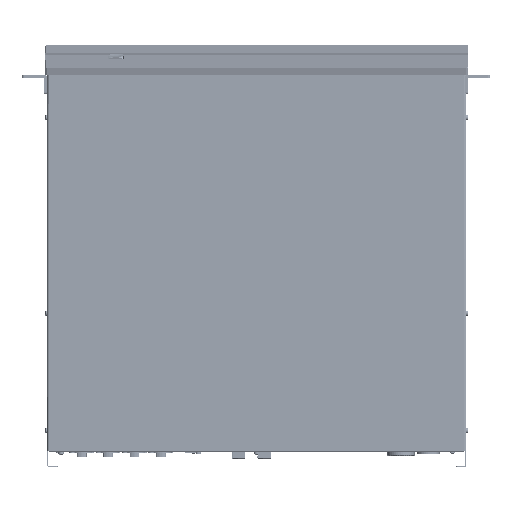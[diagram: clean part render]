
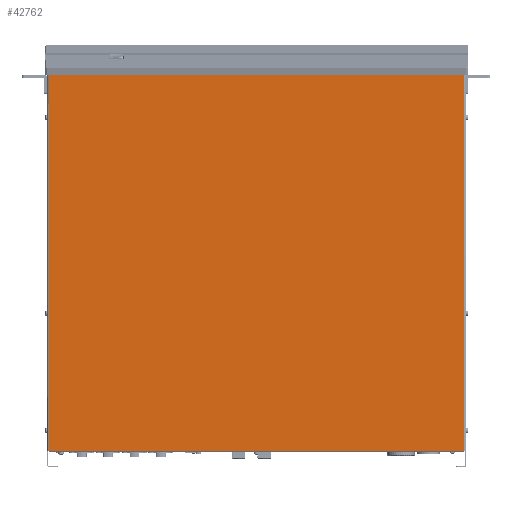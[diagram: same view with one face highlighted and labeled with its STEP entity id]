
A CAD part, top view. The second image highlights one B-rep face of the part: STEP entity #42762.
In plain terms, the highlighted planar face has unit normal (0, 0, 1).
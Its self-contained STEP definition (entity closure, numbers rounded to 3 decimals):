
#42762=ADVANCED_FACE('',(#57803),#298217,.T.);
#57803=FACE_OUTER_BOUND('',#75349,.T.);
#75349=EDGE_LOOP('',(#149593,#149594,#149595,#149596));
#149593=ORIENTED_EDGE('',*,*,#200929,.T.);
#149594=ORIENTED_EDGE('',*,*,#200930,.T.);
#149595=ORIENTED_EDGE('',*,*,#200931,.T.);
#149596=ORIENTED_EDGE('',*,*,#200932,.T.);
#200929=EDGE_CURVE('',#292348,#292349,#235277,.T.);
#200930=EDGE_CURVE('',#292349,#292350,#235278,.T.);
#200931=EDGE_CURVE('',#292350,#292351,#235279,.T.);
#200932=EDGE_CURVE('',#292351,#292348,#235280,.T.);
#235277=B_SPLINE_CURVE_WITH_KNOTS('',1,(#563490,#563491),.UNSPECIFIED.,
 .F.,.F.,(2,2),(0.,424.4),.UNSPECIFIED.);
#235278=B_SPLINE_CURVE_WITH_KNOTS('',1,(#563492,#563493),.UNSPECIFIED.,
 .F.,.F.,(2,2),(0.,384.5),.UNSPECIFIED.);
#235279=B_SPLINE_CURVE_WITH_KNOTS('',1,(#563494,#563495),.UNSPECIFIED.,
 .F.,.F.,(2,2),(0.,424.4),.UNSPECIFIED.);
#235280=B_SPLINE_CURVE_WITH_KNOTS('',1,(#563496,#563497),.UNSPECIFIED.,
 .F.,.F.,(2,2),(0.,384.5),.UNSPECIFIED.);
#292348=VERTEX_POINT('',#555594);
#292349=VERTEX_POINT('',#555595);
#292350=VERTEX_POINT('',#555596);
#292351=VERTEX_POINT('',#555597);
#298217=PLANE('',#326798);
#326798=AXIS2_PLACEMENT_3D('',#543908,#361213,$);
#361213=DIRECTION('',(0.,0.,1.));
#543908=CARTESIAN_POINT('',(-230.7,-254.64,0.));
#555594=CARTESIAN_POINT('',(192.25,-212.2,0.));
#555595=CARTESIAN_POINT('',(192.25,212.2,0.));
#555596=CARTESIAN_POINT('',(-192.25,212.2,0.));
#555597=CARTESIAN_POINT('',(-192.25,-212.2,0.));
#563490=CARTESIAN_POINT('',(192.25,-212.2,0.));
#563491=CARTESIAN_POINT('',(192.25,212.2,0.));
#563492=CARTESIAN_POINT('',(192.25,212.2,0.));
#563493=CARTESIAN_POINT('',(-192.25,212.2,0.));
#563494=CARTESIAN_POINT('',(-192.25,212.2,0.));
#563495=CARTESIAN_POINT('',(-192.25,-212.2,0.));
#563496=CARTESIAN_POINT('',(-192.25,-212.2,0.));
#563497=CARTESIAN_POINT('',(192.25,-212.2,0.));
